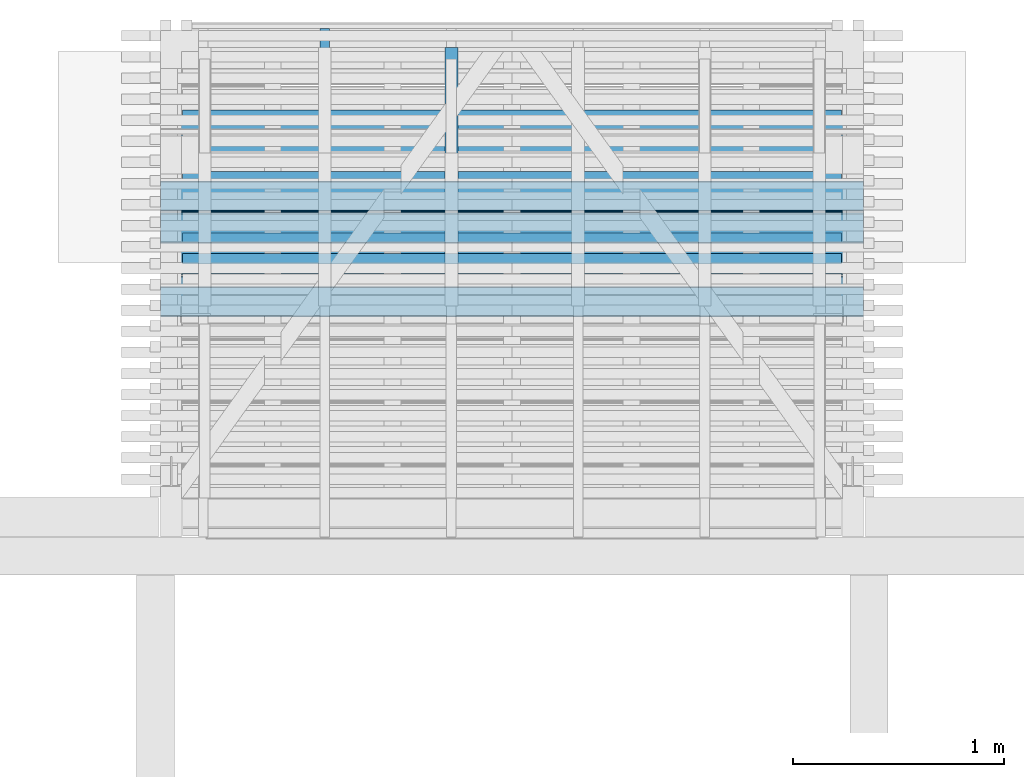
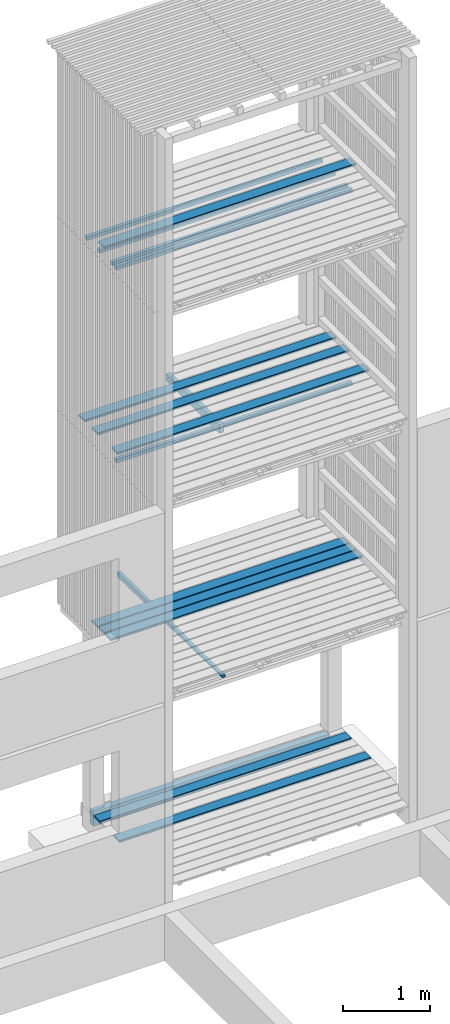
# One storey, part 24 of 182: 17 beams.
"""IFC2X3 building model written with IfcOpenShell, lengths in metres."""

from ifc_helpers import new_model, si_unit, frame, origin, place, context, project, spatial, faceted_brep, element, save


model = new_model("IFC2X3")

# Units and contexts
model_context = context("Model", 3, precision=1e-06, world=origin())
ifc_project = project(units=[si_unit("LENGTHUNIT", "METRE"), si_unit("PLANEANGLEUNIT", "RADIAN")], contexts=[model_context])

# Site, building, storey
site = spatial("IfcSite", under=ifc_project, CompositionType="ELEMENT")
building = spatial("IfcBuilding", under=site, CompositionType="ELEMENT")
storey = spatial("IfcBuildingStorey", under=building, Name="vs", CompositionType="ELEMENT", Elevation=-0.85)

# Beams
placement = place(None, origin())
beam_1_placement = place(placement, frame((6.644197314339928, 11.93457771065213, 8.13349999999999), z_axis=(0.0, 0.0, 1.0), x_axis=(-1.0, -8e-15, 0.0)))
element("IfcBeam", 1, at=beam_1_placement, inside=storey, Name="Caillebotis", context=model_context, shape_type="Brep", body=[
    faceted_brep([(3.329999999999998, -0.072500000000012, -0.013500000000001), (3.329999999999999, 0.072499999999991, -0.013500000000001), (3.329999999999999, 0.072499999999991, 0.008499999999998), (3.329999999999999, 0.067499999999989, 0.013499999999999), (3.329999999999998, -0.067500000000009, 0.013499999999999), (3.329999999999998, -0.072500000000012, 0.0085), (-1e-15, -0.072499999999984, 0.0085), (-1e-15, -0.067499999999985, 0.013499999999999), (1e-15, 0.067500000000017, 0.013499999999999), (1e-15, 0.072500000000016, 0.008499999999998), (1e-15, 0.072500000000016, -0.013500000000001), (-1e-15, -0.072499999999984, -0.013500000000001), (3.329999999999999, 0.072499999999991, 0.008499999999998), (3.329999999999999, 0.072499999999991, -0.013500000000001), (1e-15, 0.072500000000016, -0.013500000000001), (1e-15, 0.072500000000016, 0.008499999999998), (3.329999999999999, 0.067499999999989, 0.013499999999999), (3.329999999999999, 0.072499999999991, 0.008499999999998), (1e-15, 0.072500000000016, 0.008499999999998), (1e-15, 0.067500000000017, 0.013499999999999), (3.329999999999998, -0.067500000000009, 0.013499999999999), (3.329999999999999, 0.067499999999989, 0.013499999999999), (1e-15, 0.067500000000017, 0.013499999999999), (-1e-15, -0.067499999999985, 0.013499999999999), (3.329999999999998, -0.072500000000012, 0.0085), (3.329999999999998, -0.067500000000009, 0.013499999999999), (-1e-15, -0.067499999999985, 0.013499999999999), (-1e-15, -0.072499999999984, 0.0085), (3.329999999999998, -0.072500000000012, -0.013500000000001), (3.329999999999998, -0.072500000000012, 0.0085), (-1e-15, -0.072499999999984, 0.0085), (-1e-15, -0.072499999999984, -0.013500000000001), (1e-15, 0.072500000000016, -0.013500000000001), (3.329999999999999, 0.072499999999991, -0.013500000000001), (3.329999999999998, -0.072500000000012, -0.013500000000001), (-1e-15, -0.072499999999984, -0.013500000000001)], [[[0, 1, 2, 3, 4, 5]], [[6, 7, 8, 9, 10, 11]], [[12, 13, 14, 15]], [[16, 17, 18, 19]], [[20, 21, 22, 23]], [[24, 25, 26, 27]], [[28, 29, 30, 31]], [[32, 33, 34, 35]]]),
])
beam_2_placement = place(placement, frame((6.644197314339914, 11.584577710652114, 0.033500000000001), z_axis=(0.0, 0.0, 1.0), x_axis=(-1.0, 0.0, 0.0)))
element("IfcBeam", 2, at=beam_2_placement, inside=storey, Name="Caillebotis", context=model_context, shape_type="Brep", body=[
    faceted_brep([(3.329999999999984, -0.067500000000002, 0.0135), (3.329999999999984, -0.072499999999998, 0.008500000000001), (3.329999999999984, -0.072499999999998, -0.013500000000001), (3.329999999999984, 0.072500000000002, -0.013500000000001), (3.329999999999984, 0.072499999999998, 0.0085), (3.329999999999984, 0.067500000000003, 0.0135), (0.0, 0.067500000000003, 0.0135), (0.0, 0.072499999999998, 0.0085), (0.0, 0.072499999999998, -0.013500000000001), (0.0, -0.072500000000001, -0.013500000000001), (0.0, -0.072500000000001, 0.008500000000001), (0.0, -0.067500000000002, 0.0135), (3.329999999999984, -0.072499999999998, -0.013500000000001), (3.329999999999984, -0.072499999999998, 0.008500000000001), (0.0, -0.072500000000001, 0.008500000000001), (0.0, -0.072500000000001, -0.013500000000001), (3.329999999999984, 0.072500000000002, -0.013500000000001), (3.329999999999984, -0.072499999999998, -0.013500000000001), (0.0, -0.072500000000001, -0.013500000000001), (0.0, 0.072499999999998, -0.013500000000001), (3.329999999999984, 0.072499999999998, 0.0085), (3.329999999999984, 0.072500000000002, -0.013500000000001), (0.0, 0.072499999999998, -0.013500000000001), (0.0, 0.072499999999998, 0.0085), (3.329999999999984, 0.067500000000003, 0.0135), (3.329999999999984, 0.072499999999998, 0.0085), (0.0, 0.072499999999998, 0.0085), (0.0, 0.067500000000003, 0.0135), (3.329999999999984, -0.067500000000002, 0.0135), (3.329999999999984, 0.067500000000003, 0.0135), (0.0, 0.067500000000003, 0.0135), (0.0, -0.067500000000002, 0.0135), (0.0, -0.072500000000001, 0.008500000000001), (3.329999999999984, -0.072499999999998, 0.008500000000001), (3.329999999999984, -0.067500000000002, 0.0135), (0.0, -0.067500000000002, 0.0135)], [[[0, 1, 2, 3, 4, 5]], [[6, 7, 8, 9, 10, 11]], [[12, 13, 14, 15]], [[16, 17, 18, 19]], [[20, 21, 22, 23]], [[24, 25, 26, 27]], [[28, 29, 30, 31]], [[32, 33, 34, 35]]]),
])
beam_3_placement = place(placement, frame((6.539197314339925, 11.789244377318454, 5.167399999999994), z_axis=(0.0, 0.0, 1.0), x_axis=(-1.0, 0.0, 0.0)))
element("IfcBeam", 3, at=beam_3_placement, inside=storey, Name="Bardage", context=model_context, shape_type="Brep", body=[
    faceted_brep([(3.120000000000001, 0.025000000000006, -0.024999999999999), (3.120000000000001, 0.025000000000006, 0.025), (3.120000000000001, -0.024999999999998, 0.025), (3.120000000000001, -0.024999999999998, -0.024999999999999), (-3e-15, -0.024999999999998, -0.024999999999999), (-3e-15, -0.024999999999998, 0.025), (-3e-15, 0.025000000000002, 0.025), (-3e-15, 0.025000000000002, -0.024999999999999), (-3e-15, 0.025000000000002, -0.024999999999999), (-3e-15, 0.025000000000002, 0.025), (3.120000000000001, 0.025000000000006, 0.025), (3.120000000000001, 0.025000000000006, -0.024999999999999), (-3e-15, 0.025000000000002, 0.025), (-3e-15, -0.024999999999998, 0.025), (3.120000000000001, -0.024999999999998, 0.025), (3.120000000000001, 0.025000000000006, 0.025), (-3e-15, -0.024999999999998, 0.025), (-3e-15, -0.024999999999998, -0.024999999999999), (3.120000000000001, -0.024999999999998, -0.024999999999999), (3.120000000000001, -0.024999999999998, 0.025), (-3e-15, -0.024999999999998, -0.024999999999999), (-3e-15, 0.025000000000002, -0.024999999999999), (3.120000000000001, 0.025000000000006, -0.024999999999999), (3.120000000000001, -0.024999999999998, -0.024999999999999)], [[[0, 1, 2, 3]], [[4, 5, 6, 7]], [[8, 9, 10, 11]], [[12, 13, 14, 15]], [[16, 17, 18, 19]], [[20, 21, 22, 23]]]),
])
beam_4_placement = place(placement, frame((6.644197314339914, 11.63457771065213, 5.433499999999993), z_axis=(0.0, 0.0, 1.0), x_axis=(-1.0, -1e-14, 0.0)))
element("IfcBeam", 4, at=beam_4_placement, inside=storey, Name="Caillebotis", context=model_context, shape_type="Brep", body=[
    faceted_brep([(3.329999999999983, -0.072500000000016, -0.0135), (3.329999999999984, 0.072499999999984, -0.0135), (3.329999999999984, 0.072499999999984, 0.0085), (3.329999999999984, 0.067499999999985, 0.0135), (3.329999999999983, -0.067500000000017, 0.0135), (3.329999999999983, -0.072500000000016, 0.008500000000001), (-1.5e-14, -0.072499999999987, 0.008500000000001), (-1.5e-14, -0.067499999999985, 0.0135), (-1.4e-14, 0.067500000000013, 0.0135), (-1.4e-14, 0.072500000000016, 0.0085), (-1.4e-14, 0.072500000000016, -0.0135), (-1.5e-14, -0.072499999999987, -0.0135), (3.329999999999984, 0.072499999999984, 0.0085), (3.329999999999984, 0.072499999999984, -0.0135), (-1.4e-14, 0.072500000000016, -0.0135), (-1.4e-14, 0.072500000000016, 0.0085), (3.329999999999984, 0.067499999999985, 0.0135), (3.329999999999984, 0.072499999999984, 0.0085), (-1.4e-14, 0.072500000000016, 0.0085), (-1.4e-14, 0.067500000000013, 0.0135), (3.329999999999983, -0.067500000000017, 0.0135), (3.329999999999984, 0.067499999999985, 0.0135), (-1.4e-14, 0.067500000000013, 0.0135), (-1.5e-14, -0.067499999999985, 0.0135), (3.329999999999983, -0.072500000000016, 0.008500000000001), (3.329999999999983, -0.067500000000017, 0.0135), (-1.5e-14, -0.067499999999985, 0.0135), (-1.5e-14, -0.072499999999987, 0.008500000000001), (3.329999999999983, -0.072500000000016, -0.0135), (3.329999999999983, -0.072500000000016, 0.008500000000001), (-1.5e-14, -0.072499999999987, 0.008500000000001), (-1.5e-14, -0.072499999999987, -0.0135), (-1.4e-14, 0.072500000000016, -0.0135), (3.329999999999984, 0.072499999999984, -0.0135), (3.329999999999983, -0.072500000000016, -0.0135), (-1.5e-14, -0.072499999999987, -0.0135)], [[[0, 1, 2, 3, 4, 5]], [[6, 7, 8, 9, 10, 11]], [[12, 13, 14, 15]], [[16, 17, 18, 19]], [[20, 21, 22, 23]], [[24, 25, 26, 27]], [[28, 29, 30, 31]], [[32, 33, 34, 35]]]),
])
beam_5_placement = place(placement, frame((6.539197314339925, 12.46882771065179, 7.86739999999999), z_axis=(0.0, 0.0, 1.0), x_axis=(-1.0, 0.0, 0.0)))
element("IfcBeam", 5, at=beam_5_placement, inside=storey, Name="Bardage", context=model_context, shape_type="Brep", body=[
    faceted_brep([(3.120000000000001, 0.025000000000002, -0.024999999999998), (3.120000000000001, 0.025000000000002, 0.025000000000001), (3.120000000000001, -0.024999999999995, 0.025000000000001), (3.120000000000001, -0.024999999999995, -0.024999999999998), (-3e-15, -0.024999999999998, -0.024999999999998), (-3e-15, -0.024999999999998, 0.025000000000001), (-3e-15, 0.025000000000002, 0.025000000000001), (-3e-15, 0.025000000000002, -0.024999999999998), (-3e-15, 0.025000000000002, -0.024999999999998), (-3e-15, 0.025000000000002, 0.025000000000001), (3.120000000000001, 0.025000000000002, 0.025000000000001), (3.120000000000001, 0.025000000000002, -0.024999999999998), (-3e-15, 0.025000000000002, 0.025000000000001), (-3e-15, -0.024999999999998, 0.025000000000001), (3.120000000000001, -0.024999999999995, 0.025000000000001), (3.120000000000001, 0.025000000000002, 0.025000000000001), (-3e-15, -0.024999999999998, 0.025000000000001), (-3e-15, -0.024999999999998, -0.024999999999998), (3.120000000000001, -0.024999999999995, -0.024999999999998), (3.120000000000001, -0.024999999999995, 0.025000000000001), (-3e-15, -0.024999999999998, -0.024999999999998), (-3e-15, 0.025000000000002, -0.024999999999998), (3.120000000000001, 0.025000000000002, -0.024999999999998), (3.120000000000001, -0.024999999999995, -0.024999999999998)], [[[0, 1, 2, 3]], [[4, 5, 6, 7]], [[8, 9, 10, 11]], [[12, 13, 14, 15]], [[16, 17, 18, 19]], [[20, 21, 22, 23]]]),
])
beam_6_placement = place(placement, frame((6.644197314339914, 12.084577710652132, 5.433499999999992), z_axis=(0.0, 0.0, 1.0), x_axis=(-1.0, -1e-14, 0.0)))
element("IfcBeam", 6, at=beam_6_placement, inside=storey, Name="Caillebotis", context=model_context, shape_type="Brep", body=[
    faceted_brep([(3.329999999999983, -0.072500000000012, -0.013499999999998), (3.329999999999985, 0.072499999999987, -0.013499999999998), (3.329999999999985, 0.072499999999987, 0.008500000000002), (3.329999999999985, 0.067499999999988, 0.013500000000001), (3.329999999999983, -0.067500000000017, 0.013500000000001), (3.329999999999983, -0.072500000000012, 0.008500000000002), (-1.5e-14, -0.07249999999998, 0.008500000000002), (-1.5e-14, -0.067499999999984, 0.013500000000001), (-1.4e-14, 0.067500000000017, 0.013500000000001), (-1.4e-14, 0.072500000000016, 0.008500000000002), (-1.4e-14, 0.072500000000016, -0.013499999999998), (-1.5e-14, -0.07249999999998, -0.013499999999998), (3.329999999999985, 0.072499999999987, 0.008500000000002), (3.329999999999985, 0.072499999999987, -0.013499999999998), (-1.4e-14, 0.072500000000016, -0.013499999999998), (-1.4e-14, 0.072500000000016, 0.008500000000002), (3.329999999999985, 0.067499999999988, 0.013500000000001), (3.329999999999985, 0.072499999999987, 0.008500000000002), (-1.4e-14, 0.072500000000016, 0.008500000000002), (-1.4e-14, 0.067500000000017, 0.013500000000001), (3.329999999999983, -0.067500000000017, 0.013500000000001), (3.329999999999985, 0.067499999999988, 0.013500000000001), (-1.4e-14, 0.067500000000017, 0.013500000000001), (-1.5e-14, -0.067499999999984, 0.013500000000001), (3.329999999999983, -0.072500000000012, 0.008500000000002), (3.329999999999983, -0.067500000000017, 0.013500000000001), (-1.5e-14, -0.067499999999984, 0.013500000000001), (-1.5e-14, -0.07249999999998, 0.008500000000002), (3.329999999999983, -0.072500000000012, -0.013499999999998), (3.329999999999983, -0.072500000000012, 0.008500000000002), (-1.5e-14, -0.07249999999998, 0.008500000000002), (-1.5e-14, -0.07249999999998, -0.013499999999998), (-1.4e-14, 0.072500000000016, -0.013499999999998), (3.329999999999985, 0.072499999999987, -0.013499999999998), (3.329999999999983, -0.072500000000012, -0.013499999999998), (-1.5e-14, -0.07249999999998, -0.013499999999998)], [[[0, 1, 2, 3, 4, 5]], [[6, 7, 8, 9, 10, 11]], [[12, 13, 14, 15]], [[16, 17, 18, 19]], [[20, 21, 22, 23]], [[24, 25, 26, 27]], [[28, 29, 30, 31]], [[32, 33, 34, 35]]]),
])
beam_7_placement = place(placement, frame((6.644197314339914, 12.084577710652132, 2.733499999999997), z_axis=(0.0, 0.0, 1.0), x_axis=(-1.0, -1e-14, 0.0)))
element("IfcBeam", 7, at=beam_7_placement, inside=storey, Name="Caillebotis", context=model_context, shape_type="Brep", body=[
    faceted_brep([(3.329999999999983, -0.072500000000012, -0.013499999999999), (3.329999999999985, 0.072499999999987, -0.013499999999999), (3.329999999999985, 0.072499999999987, 0.0085), (3.329999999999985, 0.067499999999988, 0.013500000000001), (3.329999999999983, -0.067500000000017, 0.013500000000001), (3.329999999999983, -0.072500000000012, 0.008500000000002), (-1.5e-14, -0.072499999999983, 0.008500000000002), (-1.5e-14, -0.067499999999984, 0.013500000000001), (-1.4e-14, 0.067500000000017, 0.0135), (-1.4e-14, 0.072500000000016, 0.008500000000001), (-1.4e-14, 0.072500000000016, -0.013499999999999), (-1.5e-14, -0.072499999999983, -0.013499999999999), (3.329999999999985, 0.072499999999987, 0.0085), (3.329999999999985, 0.072499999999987, -0.013499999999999), (-1.4e-14, 0.072500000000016, -0.013499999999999), (-1.4e-14, 0.072500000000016, 0.008500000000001), (3.329999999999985, 0.067499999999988, 0.013500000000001), (3.329999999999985, 0.072499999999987, 0.0085), (-1.4e-14, 0.072500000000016, 0.008500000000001), (-1.4e-14, 0.067500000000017, 0.0135), (3.329999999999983, -0.067500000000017, 0.013500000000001), (3.329999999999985, 0.067499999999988, 0.013500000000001), (-1.4e-14, 0.067500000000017, 0.0135), (-1.5e-14, -0.067499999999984, 0.013500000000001), (3.329999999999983, -0.072500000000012, 0.008500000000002), (3.329999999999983, -0.067500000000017, 0.013500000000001), (-1.5e-14, -0.067499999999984, 0.013500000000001), (-1.5e-14, -0.072499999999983, 0.008500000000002), (3.329999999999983, -0.072500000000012, -0.013499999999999), (3.329999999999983, -0.072500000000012, 0.008500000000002), (-1.5e-14, -0.072499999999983, 0.008500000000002), (-1.5e-14, -0.072499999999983, -0.013499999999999), (-1.4e-14, 0.072500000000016, -0.013499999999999), (3.329999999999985, 0.072499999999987, -0.013499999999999), (3.329999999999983, -0.072500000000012, -0.013499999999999), (-1.5e-14, -0.072499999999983, -0.013499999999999)], [[[0, 1, 2, 3, 4, 5]], [[6, 7, 8, 9, 10, 11]], [[12, 13, 14, 15]], [[16, 17, 18, 19]], [[20, 21, 22, 23]], [[24, 25, 26, 27]], [[28, 29, 30, 31]], [[32, 33, 34, 35]]]),
])
beam_8_placement = place(placement, frame((6.54419731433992, 12.33007771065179, -0.159999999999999), z_axis=(0.0, 0.0, 1.0), x_axis=(-1.0, 0.0, 0.0)))
element("IfcBeam", 8, at=beam_8_placement, inside=storey, Name="Sommier", context=model_context, shape_type="Brep", body=[
    faceted_brep([(3.129999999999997, 0.040000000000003, -0.1), (3.129999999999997, -0.039999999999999, -0.1), (1e-15, -0.040000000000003, -0.1), (1e-15, 0.039999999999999, -0.1), (3.129999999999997, 0.040000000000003, 0.1), (3.129999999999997, 0.040000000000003, -0.1), (1e-15, 0.039999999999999, -0.1), (1e-15, 0.039999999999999, 0.1), (3.129999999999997, 0.040000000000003, -0.1), (3.129999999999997, 0.040000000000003, 0.1), (3.129999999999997, -0.039999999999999, 0.1), (3.129999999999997, -0.039999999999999, -0.1), (3.129999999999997, -0.039999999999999, 0.1), (3.129999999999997, 0.040000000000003, 0.1), (1e-15, 0.039999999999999, 0.1), (1e-15, -0.040000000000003, 0.1), (1e-15, -0.040000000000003, -0.1), (3.129999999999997, -0.039999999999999, -0.1), (3.129999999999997, -0.039999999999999, 0.1), (1e-15, -0.040000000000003, 0.1), (1e-15, 0.039999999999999, -0.1), (1e-15, -0.040000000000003, -0.1), (1e-15, -0.040000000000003, 0.1), (1e-15, 0.039999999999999, 0.1)], [[[0, 1, 2, 3]], [[4, 5, 6, 7]], [[8, 9, 10, 11]], [[12, 13, 14, 15]], [[16, 17, 18, 19]], [[20, 21, 22, 23]]]),
])
beam_9_placement = place(placement, frame((6.644197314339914, 11.784577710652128, 2.733499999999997), z_axis=(0.0, 0.0, 1.0), x_axis=(-1.0, -8e-15, 0.0)))
element("IfcBeam", 9, at=beam_9_placement, inside=storey, Name="Caillebotis", context=model_context, shape_type="Brep", body=[
    faceted_brep([(3.329999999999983, -0.072500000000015, -0.0135), (3.329999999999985, 0.072499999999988, -0.0135), (3.329999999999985, 0.072499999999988, 0.0085), (3.329999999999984, 0.067499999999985, 0.0135), (3.329999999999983, -0.067500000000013, 0.0135), (3.329999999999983, -0.072500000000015, 0.008500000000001), (-1.5e-14, -0.072499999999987, 0.008500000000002), (-1.5e-14, -0.067499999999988, 0.0135), (-1.4e-14, 0.067500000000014, 0.013500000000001), (-1.4e-14, 0.072500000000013, 0.0085), (-1.4e-14, 0.072500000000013, -0.0135), (-1.5e-14, -0.072499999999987, -0.0135), (3.329999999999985, 0.072499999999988, 0.0085), (3.329999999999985, 0.072499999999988, -0.0135), (-1.4e-14, 0.072500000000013, -0.0135), (-1.4e-14, 0.072500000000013, 0.0085), (3.329999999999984, 0.067499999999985, 0.0135), (3.329999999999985, 0.072499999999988, 0.0085), (-1.4e-14, 0.072500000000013, 0.0085), (-1.4e-14, 0.067500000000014, 0.013500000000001), (3.329999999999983, -0.067500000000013, 0.0135), (3.329999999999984, 0.067499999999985, 0.0135), (-1.4e-14, 0.067500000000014, 0.013500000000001), (-1.5e-14, -0.067499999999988, 0.0135), (3.329999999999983, -0.072500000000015, 0.008500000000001), (3.329999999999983, -0.067500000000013, 0.0135), (-1.5e-14, -0.067499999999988, 0.0135), (-1.5e-14, -0.072499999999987, 0.008500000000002), (3.329999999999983, -0.072500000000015, -0.0135), (3.329999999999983, -0.072500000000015, 0.008500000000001), (-1.5e-14, -0.072499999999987, 0.008500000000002), (-1.5e-14, -0.072499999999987, -0.0135), (-1.4e-14, 0.072500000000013, -0.0135), (3.329999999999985, 0.072499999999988, -0.0135), (3.329999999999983, -0.072500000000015, -0.0135), (-1.5e-14, -0.072499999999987, -0.0135)], [[[0, 1, 2, 3, 4, 5]], [[6, 7, 8, 9, 10, 11]], [[12, 13, 14, 15]], [[16, 17, 18, 19]], [[20, 21, 22, 23]], [[24, 25, 26, 27]], [[28, 29, 30, 31]], [[32, 33, 34, 35]]]),
])
beam_10_placement = place(placement, frame((6.644197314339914, 12.034577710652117, 0.033500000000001), z_axis=(0.0, 0.0, 1.0), x_axis=(-1.0, -1e-15, 0.0)))
element("IfcBeam", 10, at=beam_10_placement, inside=storey, Name="Caillebotis", context=model_context, shape_type="Brep", body=[
    faceted_brep([(3.329999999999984, -0.067499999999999, 0.0135), (3.329999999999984, -0.072500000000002, 0.008500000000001), (3.329999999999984, -0.072500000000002, -0.013500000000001), (3.329999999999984, 0.072500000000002, -0.013500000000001), (3.329999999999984, 0.072500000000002, 0.0085), (3.329999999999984, 0.067499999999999, 0.0135), (0.0, 0.067500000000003, 0.0135), (0.0, 0.072500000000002, 0.0085), (0.0, 0.072500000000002, -0.013500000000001), (0.0, -0.072499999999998, -0.013500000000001), (0.0, -0.072499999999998, 0.008500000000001), (0.0, -0.067499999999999, 0.0135), (3.329999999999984, -0.072500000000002, -0.013500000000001), (3.329999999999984, -0.072500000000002, 0.008500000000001), (0.0, -0.072499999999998, 0.008500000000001), (0.0, -0.072499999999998, -0.013500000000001), (3.329999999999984, 0.072500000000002, -0.013500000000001), (3.329999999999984, -0.072500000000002, -0.013500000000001), (0.0, -0.072499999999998, -0.013500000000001), (0.0, 0.072500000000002, -0.013500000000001), (3.329999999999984, 0.072500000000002, 0.0085), (3.329999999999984, 0.072500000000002, -0.013500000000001), (0.0, 0.072500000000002, -0.013500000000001), (0.0, 0.072500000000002, 0.0085), (3.329999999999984, 0.067499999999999, 0.0135), (3.329999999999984, 0.072500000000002, 0.0085), (0.0, 0.072500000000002, 0.0085), (0.0, 0.067500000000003, 0.0135), (3.329999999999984, -0.067499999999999, 0.0135), (3.329999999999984, 0.067499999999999, 0.0135), (0.0, 0.067500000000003, 0.0135), (0.0, -0.067499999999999, 0.0135), (0.0, -0.072499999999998, 0.008500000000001), (3.329999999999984, -0.072500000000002, 0.008500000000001), (3.329999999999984, -0.067499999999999, 0.0135), (0.0, -0.067499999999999, 0.0135)], [[[0, 1, 2, 3, 4, 5]], [[6, 7, 8, 9, 10, 11]], [[12, 13, 14, 15]], [[16, 17, 18, 19]], [[20, 21, 22, 23]], [[24, 25, 26, 27]], [[28, 29, 30, 31]], [[32, 33, 34, 35]]]),
])
beam_11_placement = place(placement, frame((6.644197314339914, 12.38457771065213, 5.433499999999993), z_axis=(0.0, 0.0, 1.0), x_axis=(-1.0, -1e-14, 0.0)))
element("IfcBeam", 11, at=beam_11_placement, inside=storey, Name="Caillebotis", context=model_context, shape_type="Brep", body=[
    faceted_brep([(3.329999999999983, -0.072500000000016, -0.0135), (3.329999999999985, 0.072499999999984, -0.0135), (3.329999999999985, 0.072499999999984, 0.0085), (3.329999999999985, 0.067499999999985, 0.0135), (3.329999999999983, -0.067500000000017, 0.0135), (3.329999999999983, -0.072500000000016, 0.008500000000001), (-1.5e-14, -0.072499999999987, 0.008500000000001), (-1.5e-14, -0.067499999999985, 0.0135), (-1.4e-14, 0.067500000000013, 0.0135), (-1.4e-14, 0.072500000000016, 0.0085), (-1.4e-14, 0.072500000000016, -0.0135), (-1.5e-14, -0.072499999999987, -0.0135), (3.329999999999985, 0.072499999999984, 0.0085), (3.329999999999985, 0.072499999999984, -0.0135), (-1.4e-14, 0.072500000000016, -0.0135), (-1.4e-14, 0.072500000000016, 0.0085), (3.329999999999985, 0.067499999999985, 0.0135), (3.329999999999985, 0.072499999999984, 0.0085), (-1.4e-14, 0.072500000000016, 0.0085), (-1.4e-14, 0.067500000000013, 0.0135), (3.329999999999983, -0.067500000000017, 0.0135), (3.329999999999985, 0.067499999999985, 0.0135), (-1.4e-14, 0.067500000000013, 0.0135), (-1.5e-14, -0.067499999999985, 0.0135), (3.329999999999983, -0.072500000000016, 0.008500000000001), (3.329999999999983, -0.067500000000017, 0.0135), (-1.5e-14, -0.067499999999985, 0.0135), (-1.5e-14, -0.072499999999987, 0.008500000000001), (3.329999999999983, -0.072500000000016, -0.0135), (3.329999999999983, -0.072500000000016, 0.008500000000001), (-1.5e-14, -0.072499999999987, 0.008500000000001), (-1.5e-14, -0.072499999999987, -0.0135), (-1.4e-14, 0.072500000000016, -0.0135), (3.329999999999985, 0.072499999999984, -0.0135), (3.329999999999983, -0.072500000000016, -0.0135), (-1.5e-14, -0.072499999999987, -0.0135)], [[[0, 1, 2, 3, 4, 5]], [[6, 7, 8, 9, 10, 11]], [[12, 13, 14, 15]], [[16, 17, 18, 19]], [[20, 21, 22, 23]], [[24, 25, 26, 27]], [[28, 29, 30, 31]], [[32, 33, 34, 35]]]),
])
beam_12_placement = place(placement, frame((6.644197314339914, 11.93457771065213, 2.733499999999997), z_axis=(0.0, 0.0, 1.0), x_axis=(-1.0, -8e-15, 0.0)))
element("IfcBeam", 12, at=beam_12_placement, inside=storey, Name="Caillebotis", context=model_context, shape_type="Brep", body=[
    faceted_brep([(3.329999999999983, -0.072500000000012, -0.0135), (3.329999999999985, 0.072499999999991, -0.0135), (3.329999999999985, 0.072499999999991, 0.0085), (3.329999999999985, 0.067499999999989, 0.0135), (3.329999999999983, -0.067500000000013, 0.0135), (3.329999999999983, -0.072500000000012, 0.008500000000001), (-1.5e-14, -0.072499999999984, 0.008500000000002), (-1.5e-14, -0.067499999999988, 0.0135), (-1.4e-14, 0.067500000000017, 0.0135), (-1.4e-14, 0.072500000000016, 0.0085), (-1.4e-14, 0.072500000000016, -0.0135), (-1.5e-14, -0.072499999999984, -0.0135), (3.329999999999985, 0.072499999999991, 0.0085), (3.329999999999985, 0.072499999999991, -0.0135), (-1.4e-14, 0.072500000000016, -0.0135), (-1.4e-14, 0.072500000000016, 0.0085), (3.329999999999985, 0.067499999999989, 0.0135), (3.329999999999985, 0.072499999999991, 0.0085), (-1.4e-14, 0.072500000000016, 0.0085), (-1.4e-14, 0.067500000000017, 0.0135), (3.329999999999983, -0.067500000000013, 0.0135), (3.329999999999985, 0.067499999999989, 0.0135), (-1.4e-14, 0.067500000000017, 0.0135), (-1.5e-14, -0.067499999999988, 0.0135), (3.329999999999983, -0.072500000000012, 0.008500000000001), (3.329999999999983, -0.067500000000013, 0.0135), (-1.5e-14, -0.067499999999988, 0.0135), (-1.5e-14, -0.072499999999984, 0.008500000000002), (3.329999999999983, -0.072500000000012, -0.0135), (3.329999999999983, -0.072500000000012, 0.008500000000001), (-1.5e-14, -0.072499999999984, 0.008500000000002), (-1.5e-14, -0.072499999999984, -0.0135), (-1.4e-14, 0.072500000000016, -0.0135), (3.329999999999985, 0.072499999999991, -0.0135), (3.329999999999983, -0.072500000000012, -0.0135), (-1.5e-14, -0.072499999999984, -0.0135)], [[[0, 1, 2, 3, 4, 5]], [[6, 7, 8, 9, 10, 11]], [[12, 13, 14, 15]], [[16, 17, 18, 19]], [[20, 21, 22, 23]], [[24, 25, 26, 27]], [[28, 29, 30, 31]], [[32, 33, 34, 35]]]),
])
beam_13_placement = place(placement, frame((6.539197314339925, 12.177577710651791, 7.86739999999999), z_axis=(0.0, 0.0, 1.0), x_axis=(-1.0, -1e-15, 0.0)))
element("IfcBeam", 13, at=beam_13_placement, inside=storey, Name="Bardage", context=model_context, shape_type="Brep", body=[
    faceted_brep([(3.119999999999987, -0.025000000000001, 0.025000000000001), (3.119999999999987, -0.025000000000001, -0.024999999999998), (3.120000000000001, 0.024999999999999, -0.024999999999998), (3.120000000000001, 0.024999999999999, 0.025000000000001), (-3e-15, -0.024999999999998, 0.025000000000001), (-3e-15, 0.025000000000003, 0.025000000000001), (-3e-15, 0.025000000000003, -0.024999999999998), (-3e-15, -0.024999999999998, -0.024999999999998), (-3e-15, 0.025000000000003, 0.025000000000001), (-3e-15, -0.024999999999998, 0.025000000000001), (3.119999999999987, -0.025000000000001, 0.025000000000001), (3.120000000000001, 0.024999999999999, 0.025000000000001), (3.120000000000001, 0.024999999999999, 0.025000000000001), (3.120000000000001, 0.024999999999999, -0.024999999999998), (-3e-15, 0.025000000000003, -0.024999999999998), (-3e-15, 0.025000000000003, 0.025000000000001), (3.119999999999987, -0.025000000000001, -0.024999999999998), (3.119999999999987, -0.025000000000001, 0.025000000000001), (-3e-15, -0.024999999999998, 0.025000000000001), (-3e-15, -0.024999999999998, -0.024999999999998), (3.120000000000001, 0.024999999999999, -0.024999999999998), (3.119999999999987, -0.025000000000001, -0.024999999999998), (-3e-15, -0.024999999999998, -0.024999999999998), (-3e-15, 0.025000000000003, -0.024999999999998)], [[[0, 1, 2, 3]], [[4, 5, 6, 7]], [[8, 9, 10, 11]], [[12, 13, 14, 15]], [[16, 17, 18, 19]], [[20, 21, 22, 23]]]),
])
beam_14_placement = place(placement, frame((6.539197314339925, 11.886327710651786, 7.86739999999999), z_axis=(0.0, 0.0, 1.0), x_axis=(-1.0, 0.0, 0.0)))
element("IfcBeam", 14, at=beam_14_placement, inside=storey, Name="Bardage", context=model_context, shape_type="Brep", body=[
    faceted_brep([(3.120000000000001, 0.024999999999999, -0.024999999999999), (3.120000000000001, 0.024999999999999, 0.025000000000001), (3.120000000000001, -0.024999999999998, 0.025000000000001), (3.120000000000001, -0.024999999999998, -0.024999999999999), (-3e-15, -0.025000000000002, -0.024999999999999), (-3e-15, -0.025000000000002, 0.025000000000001), (-3e-15, 0.024999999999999, 0.025000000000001), (-3e-15, 0.024999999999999, -0.024999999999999), (-3e-15, 0.024999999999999, -0.024999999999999), (-3e-15, 0.024999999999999, 0.025000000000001), (3.120000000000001, 0.024999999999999, 0.025000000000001), (3.120000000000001, 0.024999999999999, -0.024999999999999), (-3e-15, 0.024999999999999, 0.025000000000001), (-3e-15, -0.025000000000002, 0.025000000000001), (3.120000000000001, -0.024999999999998, 0.025000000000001), (3.120000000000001, 0.024999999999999, 0.025000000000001), (-3e-15, -0.025000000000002, 0.025000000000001), (-3e-15, -0.025000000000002, -0.024999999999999), (3.120000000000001, -0.024999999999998, -0.024999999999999), (3.120000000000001, -0.024999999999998, 0.025000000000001), (-3e-15, -0.025000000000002, -0.024999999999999), (-3e-15, 0.024999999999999, -0.024999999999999), (3.120000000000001, 0.024999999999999, -0.024999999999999), (3.120000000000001, -0.024999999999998, -0.024999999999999)], [[[0, 1, 2, 3]], [[4, 5, 6, 7]], [[8, 9, 10, 11]], [[12, 13, 14, 15]], [[16, 17, 18, 19]], [[20, 21, 22, 23]]]),
])
beam_15_placement = place(placement, frame((6.539197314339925, 11.789244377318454, 7.86739999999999), z_axis=(0.0, 0.0, 1.0), x_axis=(-1.0, 0.0, 0.0)))
element("IfcBeam", 15, at=beam_15_placement, inside=storey, Name="Bardage", context=model_context, shape_type="Brep", body=[
    faceted_brep([(3.120000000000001, 0.025000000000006, -0.024999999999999), (3.120000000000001, 0.025000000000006, 0.025000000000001), (3.120000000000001, -0.024999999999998, 0.025000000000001), (3.120000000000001, -0.024999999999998, -0.024999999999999), (-3e-15, -0.024999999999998, -0.024999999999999), (-3e-15, -0.024999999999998, 0.025000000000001), (-3e-15, 0.025000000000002, 0.025000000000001), (-3e-15, 0.025000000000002, -0.024999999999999), (-3e-15, 0.025000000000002, -0.024999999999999), (-3e-15, 0.025000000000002, 0.025000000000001), (3.120000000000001, 0.025000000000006, 0.025000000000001), (3.120000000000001, 0.025000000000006, -0.024999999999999), (-3e-15, 0.025000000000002, 0.025000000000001), (-3e-15, -0.024999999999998, 0.025000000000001), (3.120000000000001, -0.024999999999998, 0.025000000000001), (3.120000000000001, 0.025000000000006, 0.025000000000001), (-3e-15, -0.024999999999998, 0.025000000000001), (-3e-15, -0.024999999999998, -0.024999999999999), (3.120000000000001, -0.024999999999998, -0.024999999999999), (3.120000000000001, -0.024999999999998, 0.025000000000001), (-3e-15, -0.024999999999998, -0.024999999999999), (-3e-15, 0.025000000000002, -0.024999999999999), (3.120000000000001, 0.025000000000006, -0.024999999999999), (3.120000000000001, -0.024999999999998, -0.024999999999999)], [[[0, 1, 2, 3]], [[4, 5, 6, 7]], [[8, 9, 10, 11]], [[12, 13, 14, 15]], [[16, 17, 18, 19]], [[20, 21, 22, 23]]]),
])
beam_16_placement = place(placement, frame((4.692197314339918, 11.565077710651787, 5.304249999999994), z_axis=(0.0, 0.0, 1.0), x_axis=(1.2e-14, 1.0, 0.0)))
element("IfcBeam", 16, at=beam_16_placement, inside=storey, Name="Solive", context=model_context, shape_type="Brep", body=[
    faceted_brep([(0.0, -0.030000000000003, -0.061849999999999), (1.225000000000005, -0.029999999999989, -0.061849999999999), (1.225000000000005, -0.029999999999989, 0.03735), (0.0, -0.030000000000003, 0.06185), (-1e-15, 0.029999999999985, -0.061849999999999), (1.225000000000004, 0.029999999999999, -0.061849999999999), (1.225000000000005, -0.029999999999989, -0.061849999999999), (0.0, -0.030000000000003, -0.061849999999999), (-1e-15, 0.029999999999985, 0.061850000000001), (-1e-15, 0.029999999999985, -0.061849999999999), (0.0, -0.030000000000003, -0.061849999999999), (0.0, -0.030000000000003, 0.06185), (1.225000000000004, 0.029999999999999, -0.061849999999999), (-1e-15, 0.029999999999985, -0.061849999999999), (-1e-15, 0.029999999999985, 0.061850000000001), (1.225000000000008, 0.029999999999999, 0.03735), (1.225000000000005, -0.029999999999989, 0.03735), (1.225000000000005, -0.029999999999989, -0.061849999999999), (1.225000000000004, 0.029999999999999, -0.061849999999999), (1.225000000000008, 0.029999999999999, 0.03735), (0.0, -0.030000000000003, 0.06185), (1.225000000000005, -0.029999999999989, 0.03735), (1.225000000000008, 0.029999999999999, 0.03735), (-1e-15, 0.029999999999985, 0.061850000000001)], [[[0, 1, 2, 3]], [[4, 5, 6, 7]], [[8, 9, 10, 11]], [[12, 13, 14, 15]], [[16, 17, 18, 19]], [[20, 21, 22, 23]]]),
])
beam_17_placement = place(placement, frame((4.092197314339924, 10.470077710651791, 2.684400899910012), z_axis=(0.0, 0.0, 1.0), x_axis=(0.0, 1.0, 0.0)))
element("IfcBeam", 17, at=beam_17_placement, inside=storey, Name="Calage", context=model_context, shape_type="Brep", body=[
    faceted_brep([(2.41000000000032, -0.022500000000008, -0.035599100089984), (0.0, -0.022500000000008, 0.012600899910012), (0.0, 0.022499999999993, 0.012600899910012), (2.41000000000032, 0.022499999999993, -0.035599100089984), (0.0, 0.022499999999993, 0.035599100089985), (0.0, 0.022499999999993, 0.012600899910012), (0.0, -0.022500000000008, 0.012600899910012), (0.0, -0.022500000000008, 0.035599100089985), (2.41000000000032, 0.022499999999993, -0.035599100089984), (0.0, 0.022499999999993, 0.012600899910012), (0.0, 0.022499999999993, 0.035599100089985), (2.41000000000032, 0.022499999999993, 0.035599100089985), (2.41000000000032, -0.022500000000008, 0.035599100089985), (0.0, -0.022500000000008, 0.035599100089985), (0.0, -0.022500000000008, 0.012600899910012), (2.41000000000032, -0.022500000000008, -0.035599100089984), (2.41000000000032, 0.022499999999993, 0.035599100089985), (0.0, 0.022499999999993, 0.035599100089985), (0.0, -0.022500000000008, 0.035599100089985), (2.41000000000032, -0.022500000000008, 0.035599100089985), (2.41000000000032, 0.022499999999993, -0.035599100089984), (2.41000000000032, 0.022499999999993, 0.035599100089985), (2.41000000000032, -0.022500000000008, 0.035599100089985), (2.41000000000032, -0.022500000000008, -0.035599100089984)], [[[0, 1, 2, 3]], [[4, 5, 6, 7]], [[8, 9, 10, 11]], [[12, 13, 14, 15]], [[16, 17, 18, 19]], [[20, 21, 22, 23]]]),
])

save(model, "model.ifc")
